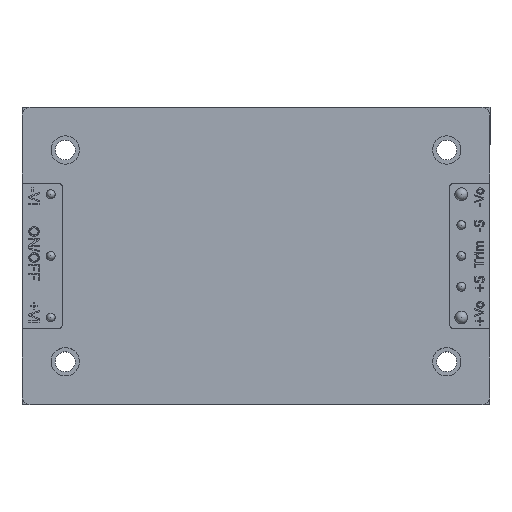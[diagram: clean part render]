
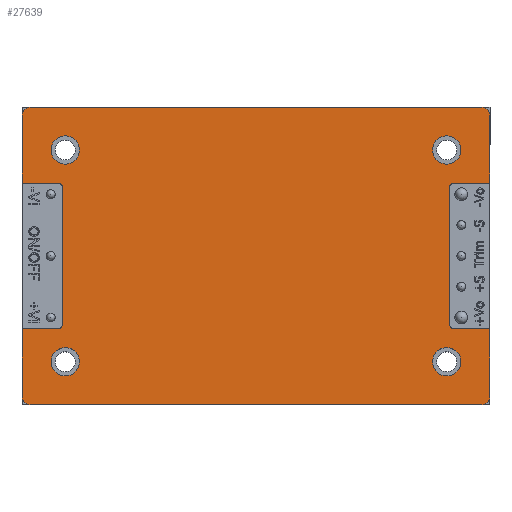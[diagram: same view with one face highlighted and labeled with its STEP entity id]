
A CAD part, top view. The second image highlights one B-rep face of the part: STEP entity #27639.
In plain terms, the highlighted planar face has unit normal (0, 0, 1).
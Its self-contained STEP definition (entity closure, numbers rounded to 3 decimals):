
#906=LINE($,#42637,#3674);
#907=LINE($,#42639,#3675);
#908=LINE($,#42643,#3676);
#909=LINE($,#42647,#3677);
#910=LINE($,#42649,#3678);
#911=LINE($,#42653,#3679);
#912=LINE($,#42657,#3680);
#913=LINE($,#42659,#3681);
#914=LINE($,#42663,#3682);
#915=LINE($,#42667,#3683);
#916=LINE($,#42669,#3684);
#917=LINE($,#42672,#3685);
#3674=VECTOR($,#32808,8.4);
#3675=VECTOR($,#32809,4.5);
#3676=VECTOR($,#32812,17.);
#3677=VECTOR($,#32815,4.5);
#3678=VECTOR($,#32816,8.4);
#3679=VECTOR($,#32819,55.9);
#3680=VECTOR($,#32822,8.4);
#3681=VECTOR($,#32823,4.5);
#3682=VECTOR($,#32826,17.);
#3683=VECTOR($,#32829,4.5);
#3684=VECTOR($,#32830,8.4);
#3685=VECTOR($,#32833,55.9);
#6039=PLANE($,#29125);
#6637=FACE_BOUND($,#9236,.T.);
#6638=FACE_BOUND($,#9237,.T.);
#6639=FACE_BOUND($,#9238,.T.);
#6640=FACE_BOUND($,#9239,.T.);
#7666=FACE_OUTER_BOUND($,#9235,.T.);
#9235=EDGE_LOOP($,(#20499,#20500,#20501,#20502,#20503,#20504,#20505,#20506,
#20507,#20508,#20509,#20510,#20511,#20512,#20513,#20514,#20515,#20516,#20517,
#20518));
#9236=EDGE_LOOP($,(#20519));
#9237=EDGE_LOOP($,(#20520));
#9238=EDGE_LOOP($,(#20521));
#9239=EDGE_LOOP($,(#20522));
#10487=CIRCLE($,#29123,1.);
#10489=CIRCLE($,#29126,0.5);
#10490=CIRCLE($,#29127,0.5);
#10491=CIRCLE($,#29128,1.);
#10492=CIRCLE($,#29129,1.);
#10493=CIRCLE($,#29130,0.5);
#10494=CIRCLE($,#29131,0.5);
#10495=CIRCLE($,#29132,1.);
#10496=CIRCLE($,#29133,1.75);
#10497=CIRCLE($,#29134,1.75);
#10498=CIRCLE($,#29135,1.75);
#10499=CIRCLE($,#29136,1.75);
#12319=VERTEX_POINT($,#42627);
#12320=VERTEX_POINT($,#42628);
#12323=VERTEX_POINT($,#42636);
#12324=VERTEX_POINT($,#42638);
#12325=VERTEX_POINT($,#42640);
#12326=VERTEX_POINT($,#42642);
#12327=VERTEX_POINT($,#42644);
#12328=VERTEX_POINT($,#42646);
#12329=VERTEX_POINT($,#42648);
#12330=VERTEX_POINT($,#42650);
#12331=VERTEX_POINT($,#42652);
#12332=VERTEX_POINT($,#42654);
#12333=VERTEX_POINT($,#42656);
#12334=VERTEX_POINT($,#42658);
#12335=VERTEX_POINT($,#42660);
#12336=VERTEX_POINT($,#42662);
#12337=VERTEX_POINT($,#42664);
#12338=VERTEX_POINT($,#42666);
#12339=VERTEX_POINT($,#42668);
#12340=VERTEX_POINT($,#42670);
#12341=VERTEX_POINT($,#42673);
#12342=VERTEX_POINT($,#42675);
#12343=VERTEX_POINT($,#42677);
#12344=VERTEX_POINT($,#42679);
#15435=EDGE_CURVE($,#12319,#12320,#10487,.T.);
#15439=EDGE_CURVE($,#12323,#12319,#906,.T.);
#15440=EDGE_CURVE($,#12323,#12324,#907,.T.);
#15441=EDGE_CURVE($,#12325,#12324,#10489,.T.);
#15442=EDGE_CURVE($,#12325,#12326,#908,.T.);
#15443=EDGE_CURVE($,#12327,#12326,#10490,.T.);
#15444=EDGE_CURVE($,#12327,#12328,#909,.T.);
#15445=EDGE_CURVE($,#12329,#12328,#910,.T.);
#15446=EDGE_CURVE($,#12330,#12329,#10491,.T.);
#15447=EDGE_CURVE($,#12331,#12330,#911,.T.);
#15448=EDGE_CURVE($,#12332,#12331,#10492,.T.);
#15449=EDGE_CURVE($,#12333,#12332,#912,.T.);
#15450=EDGE_CURVE($,#12333,#12334,#913,.T.);
#15451=EDGE_CURVE($,#12335,#12334,#10493,.T.);
#15452=EDGE_CURVE($,#12335,#12336,#914,.T.);
#15453=EDGE_CURVE($,#12337,#12336,#10494,.T.);
#15454=EDGE_CURVE($,#12337,#12338,#915,.T.);
#15455=EDGE_CURVE($,#12339,#12338,#916,.T.);
#15456=EDGE_CURVE($,#12340,#12339,#10495,.T.);
#15457=EDGE_CURVE($,#12320,#12340,#917,.T.);
#15458=EDGE_CURVE($,#12341,#12341,#10496,.T.);
#15459=EDGE_CURVE($,#12342,#12342,#10497,.T.);
#15460=EDGE_CURVE($,#12343,#12343,#10498,.T.);
#15461=EDGE_CURVE($,#12344,#12344,#10499,.T.);
#20499=ORIENTED_EDGE($,*,*,#15435,.F.);
#20500=ORIENTED_EDGE($,*,*,#15439,.F.);
#20501=ORIENTED_EDGE($,*,*,#15440,.T.);
#20502=ORIENTED_EDGE($,*,*,#15441,.F.);
#20503=ORIENTED_EDGE($,*,*,#15442,.T.);
#20504=ORIENTED_EDGE($,*,*,#15443,.F.);
#20505=ORIENTED_EDGE($,*,*,#15444,.T.);
#20506=ORIENTED_EDGE($,*,*,#15445,.F.);
#20507=ORIENTED_EDGE($,*,*,#15446,.F.);
#20508=ORIENTED_EDGE($,*,*,#15447,.F.);
#20509=ORIENTED_EDGE($,*,*,#15448,.F.);
#20510=ORIENTED_EDGE($,*,*,#15449,.F.);
#20511=ORIENTED_EDGE($,*,*,#15450,.T.);
#20512=ORIENTED_EDGE($,*,*,#15451,.F.);
#20513=ORIENTED_EDGE($,*,*,#15452,.T.);
#20514=ORIENTED_EDGE($,*,*,#15453,.F.);
#20515=ORIENTED_EDGE($,*,*,#15454,.T.);
#20516=ORIENTED_EDGE($,*,*,#15455,.F.);
#20517=ORIENTED_EDGE($,*,*,#15456,.F.);
#20518=ORIENTED_EDGE($,*,*,#15457,.F.);
#20519=ORIENTED_EDGE($,*,*,#15458,.T.);
#20520=ORIENTED_EDGE($,*,*,#15459,.T.);
#20521=ORIENTED_EDGE($,*,*,#15460,.T.);
#20522=ORIENTED_EDGE($,*,*,#15461,.T.);
#27639=ADVANCED_FACE($,(#7666,#6637,#6638,#6639,#6640),#6039,.T.);
#29123=AXIS2_PLACEMENT_3D($,#42629,#32800,#32801);
#29125=AXIS2_PLACEMENT_3D($,#42635,#32806,#32807);
#29126=AXIS2_PLACEMENT_3D($,#42641,#32810,#32811);
#29127=AXIS2_PLACEMENT_3D($,#42645,#32813,#32814);
#29128=AXIS2_PLACEMENT_3D($,#42651,#32817,#32818);
#29129=AXIS2_PLACEMENT_3D($,#42655,#32820,#32821);
#29130=AXIS2_PLACEMENT_3D($,#42661,#32824,#32825);
#29131=AXIS2_PLACEMENT_3D($,#42665,#32827,#32828);
#29132=AXIS2_PLACEMENT_3D($,#42671,#32831,#32832);
#29133=AXIS2_PLACEMENT_3D($,#42674,#32834,#32835);
#29134=AXIS2_PLACEMENT_3D($,#42676,#32836,#32837);
#29135=AXIS2_PLACEMENT_3D($,#42678,#32838,#32839);
#29136=AXIS2_PLACEMENT_3D($,#42680,#32840,#32841);
#32800=DIRECTION('center_axis',(0.,0.,-1.));
#32801=DIRECTION('ref_axis',(-0.707,0.707,0.));
#32806=DIRECTION('center_axis',(0.,0.,1.));
#32807=DIRECTION('ref_axis',(1.,0.,0.));
#32808=DIRECTION($,(0.,1.,0.));
#32809=DIRECTION($,(1.,0.,0.));
#32810=DIRECTION('center_axis',(0.,0.,1.));
#32811=DIRECTION('ref_axis',(0.707,0.707,0.));
#32812=DIRECTION($,(0.,-1.,0.));
#32813=DIRECTION('center_axis',(0.,0.,1.));
#32814=DIRECTION('ref_axis',(0.707,-0.707,0.));
#32815=DIRECTION($,(-1.,0.,0.));
#32816=DIRECTION($,(0.,1.,0.));
#32817=DIRECTION('center_axis',(0.,0.,-1.));
#32818=DIRECTION('ref_axis',(-0.707,-0.707,0.));
#32819=DIRECTION($,(-1.,0.,0.));
#32820=DIRECTION('center_axis',(0.,0.,-1.));
#32821=DIRECTION('ref_axis',(0.707,-0.707,0.));
#32822=DIRECTION($,(0.,-1.,0.));
#32823=DIRECTION($,(-1.,0.,0.));
#32824=DIRECTION('center_axis',(0.,0.,1.));
#32825=DIRECTION('ref_axis',(-0.707,-0.707,0.));
#32826=DIRECTION($,(0.,1.,0.));
#32827=DIRECTION('center_axis',(0.,0.,1.));
#32828=DIRECTION('ref_axis',(-0.707,0.707,0.));
#32829=DIRECTION($,(1.,0.,0.));
#32830=DIRECTION($,(0.,-1.,0.));
#32831=DIRECTION('center_axis',(0.,0.,-1.));
#32832=DIRECTION('ref_axis',(0.707,0.707,0.));
#32833=DIRECTION($,(1.,0.,0.));
#32834=DIRECTION('center_axis',(0.,0.,-1.));
#32835=DIRECTION('ref_axis',(1.,0.,0.));
#32836=DIRECTION('center_axis',(0.,0.,-1.));
#32837=DIRECTION('ref_axis',(1.,0.,0.));
#32838=DIRECTION('center_axis',(0.,0.,-1.));
#32839=DIRECTION('ref_axis',(1.,0.,0.));
#32840=DIRECTION('center_axis',(0.,0.,-1.));
#32841=DIRECTION('ref_axis',(1.,0.,0.));
#42627=CARTESIAN_POINT('',(-28.95,17.4,1.5));
#42628=CARTESIAN_POINT('',(-27.95,18.4,1.5));
#42629=CARTESIAN_POINT('Origin',(-27.95,17.4,1.5));
#42635=CARTESIAN_POINT('Origin',(0.,0.,
1.5));
#42636=CARTESIAN_POINT('',(-28.95,9.,1.5));
#42637=CARTESIAN_POINT($,(-28.95,-18.4,1.5));
#42638=CARTESIAN_POINT('',(-24.45,9.,1.5));
#42639=CARTESIAN_POINT($,(-11.975,9.,1.5));
#42640=CARTESIAN_POINT('',(-23.95,8.5,1.5));
#42641=CARTESIAN_POINT('Origin',(-24.45,8.5,1.5));
#42642=CARTESIAN_POINT('',(-23.95,-8.5,1.5));
#42643=CARTESIAN_POINT($,(-23.95,-4.5,1.5));
#42644=CARTESIAN_POINT('',(-24.45,-9.,1.5));
#42645=CARTESIAN_POINT('Origin',(-24.45,-8.5,1.5));
#42646=CARTESIAN_POINT('',(-28.95,-9.,1.5));
#42647=CARTESIAN_POINT($,(-14.475,-9.,1.5));
#42648=CARTESIAN_POINT('',(-28.95,-17.4,1.5));
#42649=CARTESIAN_POINT($,(-28.95,-18.4,1.5));
#42650=CARTESIAN_POINT('',(-27.95,-18.4,1.5));
#42651=CARTESIAN_POINT('Origin',(-27.95,-17.4,1.5));
#42652=CARTESIAN_POINT('',(27.95,-18.4,1.5));
#42653=CARTESIAN_POINT($,(28.95,-18.4,1.5));
#42654=CARTESIAN_POINT('',(28.95,-17.4,1.5));
#42655=CARTESIAN_POINT('Origin',(27.95,-17.4,1.5));
#42656=CARTESIAN_POINT('',(28.95,-9.,1.5));
#42657=CARTESIAN_POINT($,(28.95,18.4,1.5));
#42658=CARTESIAN_POINT('',(24.45,-9.,1.5));
#42659=CARTESIAN_POINT($,(11.975,-9.,1.5));
#42660=CARTESIAN_POINT('',(23.95,-8.5,1.5));
#42661=CARTESIAN_POINT('Origin',(24.45,-8.5,1.5));
#42662=CARTESIAN_POINT('',(23.95,8.5,1.5));
#42663=CARTESIAN_POINT($,(23.95,4.5,1.5));
#42664=CARTESIAN_POINT('',(24.45,9.,1.5));
#42665=CARTESIAN_POINT('Origin',(24.45,8.5,1.5));
#42666=CARTESIAN_POINT('',(28.95,9.,1.5));
#42667=CARTESIAN_POINT($,(14.475,9.,1.5));
#42668=CARTESIAN_POINT('',(28.95,17.4,1.5));
#42669=CARTESIAN_POINT($,(28.95,18.4,1.5));
#42670=CARTESIAN_POINT('',(27.95,18.4,1.5));
#42671=CARTESIAN_POINT('Origin',(27.95,17.4,1.5));
#42672=CARTESIAN_POINT($,(-28.95,18.4,1.5));
#42673=CARTESIAN_POINT('',(-21.85,-13.1,1.5));
#42674=CARTESIAN_POINT('Origin',(-23.6,-13.1,1.5));
#42675=CARTESIAN_POINT('',(25.35,13.1,1.5));
#42676=CARTESIAN_POINT('Origin',(23.6,13.1,1.5));
#42677=CARTESIAN_POINT('',(-21.85,13.1,1.5));
#42678=CARTESIAN_POINT('Origin',(-23.6,13.1,1.5));
#42679=CARTESIAN_POINT('',(25.35,-13.1,1.5));
#42680=CARTESIAN_POINT('Origin',(23.6,-13.1,1.5));
